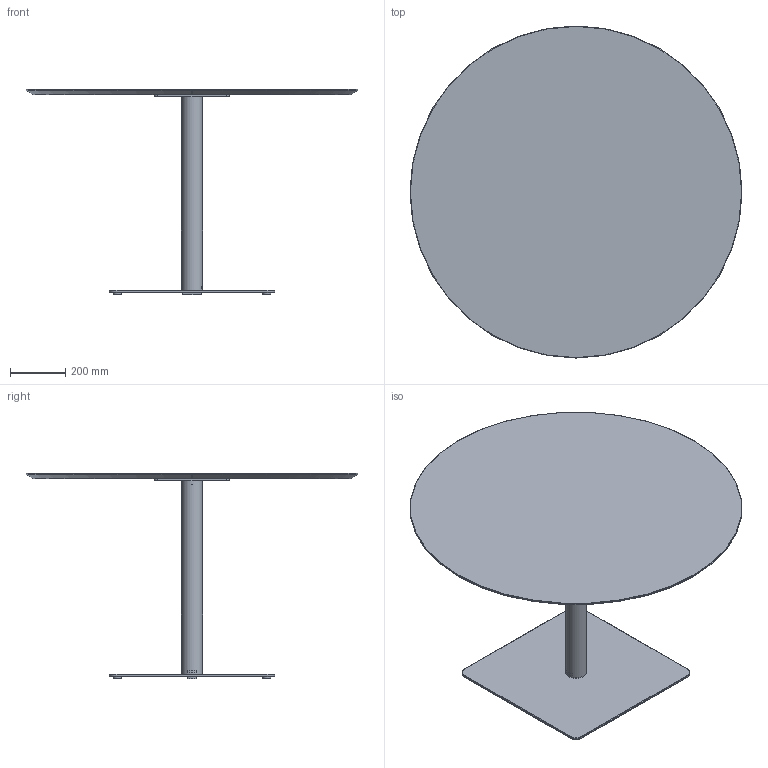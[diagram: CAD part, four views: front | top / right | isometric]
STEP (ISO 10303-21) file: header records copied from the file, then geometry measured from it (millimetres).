
FILE_DESCRIPTION( ('This file contains a STEP AP42 implementation' ,'as created by ZW3D STEP Interface translator.') ,'2;1' );
FILE_NAME( 'Henri - B_Carré - F1 - M5 - 1200 x 1200 x 750.stp' ,'24 912.162946', (''), ('ZWCAD Software Co.'), 'Version 1.0', 'ZW3D to STEP translator', '' );
FILE_SCHEMA(('AUTOMOTIVE_DESIGN { 1 0 10303 214 1 1 1 1 }'));
Length unit declared in the file: millimetre
Products named in the file (14): 0; PIED BISTROT PARAMETRIQUE_; COLONNE ACIER Ø76 V.02_; TUB-D076-02_; PLA-R76B-01_; CROIX ACIER 370 V.02_; CRX-X370-02_; SOCLE ACIER L 600x600 V.02_; SCL-R600-02_; PLA-R30A-01_; PLA-R30A-01; WUERTH 0276063020 Euro-screw 6.3x2 Verzinkt_; PLATEAU BISTROT PARAMETRIQUE_; insert_m6_13_
Assembly tree (22 placements, depth 3):
  0
  PIED BISTROT PARAMETRIQUE_
    COLONNE ACIER Ø76 V.02_
      TUB-D076-02_
      PLA-R76B-01_  x2
    CROIX ACIER 370 V.02_
      CRX-X370-02_
    SOCLE ACIER L 600x600 V.02_
      SCL-R600-02_
      PLA-R30A-01_
      PLA-R30A-01  x3
    WUERTH 0276063020 Euro-screw 6.3x2 Verzinkt_
    PLATEAU BISTROT PARAMETRIQUE_
      insert_m6_13_  x8
Bounding box: 1200 x 1200 x 744 mm (x, y, z)
Volume: 25712499.2 mm3; surface area: 3549744.6 mm2
Topology: 19 solids, 19 shells, 537 faces, 1310 edges, 822 vertices
Faces by surface type: plane 262, bspline 125, cylinder 98, cone 51, torus 1
Full cylindrical faces by diameter (mm): 4.88 x1, 6 x8, 6.3 x1, 8 x45, 12 x2, 14 x2, 30 x4, 72 x1, 76 x1
Entity records: 12318 total; most frequent: CARTESIAN_POINT 3420, ORIENTED_EDGE 1624, DIRECTION 1511, EDGE_CURVE 812, VERTEX_POINT 518, VECTOR 513, LINE 513, AXIS2_PLACEMENT_3D 499
